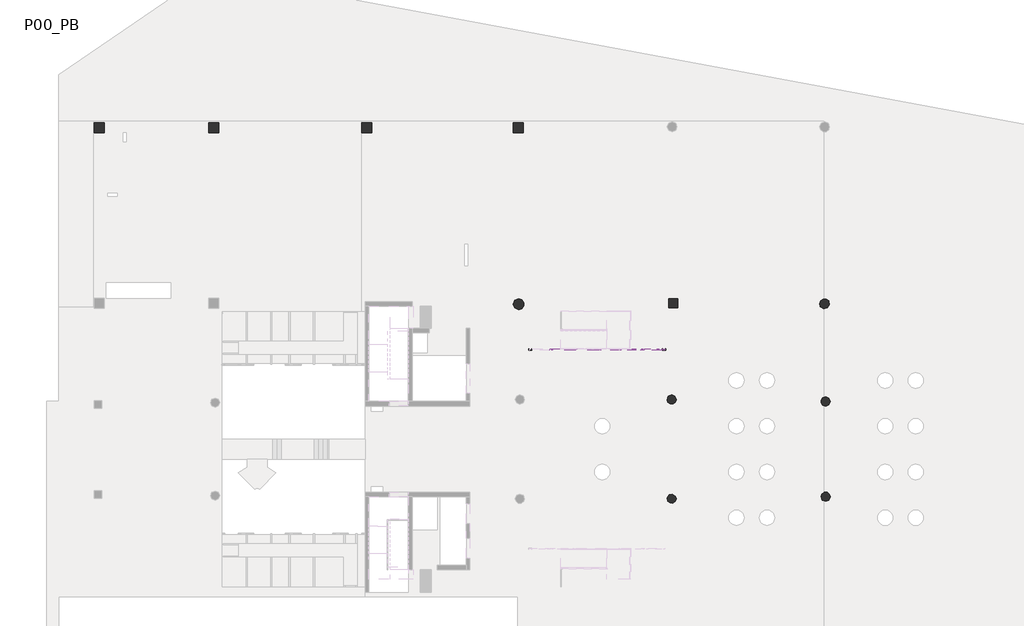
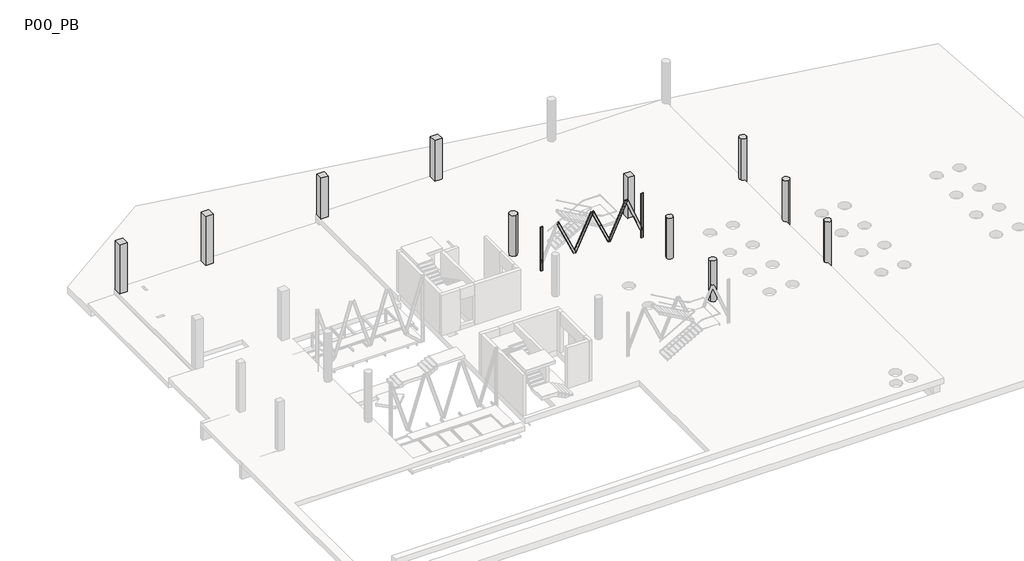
# One storey, part 5 of 7: 13 columns, 5 beams.
"""IFC4 building model written with IfcOpenShell, lengths in millimetres."""

from ifc_helpers import new_model, si_unit, point, frame, frame_2d, origin, place, context, project, spatial, polyline, circle_curve, ellipse_curve, trimmed, segment, composite_curve, outline, extrude, faceted_brep, transform, mapped, element, save
from ifc_brep_helpers import plane_surface, cylinder_surface, revolved_surface, advanced_brep
from components import upn200x75_b5eab664, upn_200x75_48ebdcb8

model = new_model("IFC4")

# Units and contexts
model_context = context("Model", 3, world=origin())
ifc_project = project(units=[si_unit("LENGTHUNIT", "METRE", prefix="MILLI")], contexts=[model_context])

# Site, building, storey
site = spatial("IfcSite", under=ifc_project)
building = spatial("IfcBuilding", under=site)
storey = spatial("IfcBuildingStorey", under=building, Name="P00_PB", Elevation=6330.0)

# Beams
placement = place(None, origin())
element("IfcBeam", 1, ObjectType="M_MC Shapes : UPN200x75", at=placement, inside=storey, context=model_context, shape_type="AdvancedBrep", body=[
    advanced_brep(
    [(-17.3562496, 10979.6239635, 7801.4251777), (-17.3562475, 11054.6239635, 7801.4251777), (-16.4725656, 11054.6239635, 7801.0139622), (-12.9400553, 11051.3233407, 7799.3701316), (-3.7907887, 10990.7752086, 7795.1125795), (3.274232, 10984.1739629, 7791.8249184), (143.3417368, 10984.173959, 7726.645423), (150.4067579, 10990.7752043, 7723.3577618), (159.5560278, 11051.3233358, 7719.1002098), (163.0885384, 11054.6239585, 7717.4563792), (163.9722203, 11054.6239584, 7717.0451636), (163.9722182, 10979.6239584, 7717.0451636), (1699.532288, 10979.6239155, 11016.8876402), (1481.7173563, 10979.6239216, 11022.8600517), (1699.5322901, 11054.6239155, 11016.8876401), (1698.4707959, 11054.6239155, 11016.9167459), (1694.2274824, 11051.3232929, 11017.0330961), (1683.2372194, 10990.7751614, 11017.3344454), (1674.7505924, 10984.1739162, 11017.5671459), (1506.4990522, 10984.1739209, 11022.180546), (1498.0124255, 10990.7751666, 11022.4132465), (1487.0221658, 11051.3232987, 11022.7145957), (1482.7788525, 11054.6239215, 11022.8309459), (1481.7173583, 11054.6239216, 11022.8600517)],
    [
        (0, 1),
        (1, 2),
        (2, 3, circle_curve(frame((-16.4725658, 11050.6739635, 7801.0139622), z_axis=(-0.42190007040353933, 1.1803094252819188e-08, -0.9066423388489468), x_axis=(2.7976042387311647e-08, 0.9999999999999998, 0.0)), 3.95)),
        (3, 4),
        (4, 5, circle_curve(frame((3.2742323, 10992.0739629, 7791.8249184), z_axis=(0.42190007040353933, -1.1803094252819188e-08, 0.9066423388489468), x_axis=(2.7976042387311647e-08, 0.9999999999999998, 0.0)), 7.9)),
        (5, 6),
        (6, 7, circle_curve(frame((143.341737, 10992.073959, 7726.645423), z_axis=(0.42190007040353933, -1.1803094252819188e-08, 0.9066423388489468), x_axis=(2.7976042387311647e-08, 0.9999999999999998, 0.0)), 7.9)),
        (7, 8),
        (8, 9, circle_curve(frame((163.0885383, 11050.6739585, 7717.4563792), z_axis=(-0.42190007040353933, 1.1803094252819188e-08, -0.9066423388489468), x_axis=(2.7976042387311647e-08, 0.9999999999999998, 0.0)), 3.95)),
        (9, 10),
        (10, 11),
        (11, 0),
        (12, 13),
        (13, 0),
        (11, 12),
        (14, 12),
        (10, 14),
        (15, 14),
        (9, 15),
        (16, 15, ellipse_curve(frame((1698.4707958, 11050.6739155, 11016.9167459), z_axis=(-0.027409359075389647, 1.2011846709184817e-10, -0.9996242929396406), x_axis=(0.9996242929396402, -2.9461084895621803e-08, -0.02740935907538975)), 4.3034617, 3.95)),
        (8, 16),
        (7, 17),
        (17, 16),
        (18, 17, ellipse_curve(frame((1674.7505926, 10992.0739162, 11017.5671459), z_axis=(0.027409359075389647, -1.2011846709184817e-10, 0.9996242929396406), x_axis=(-0.9996242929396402, 2.9461084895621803e-08, 0.02740935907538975)), 8.6069235, 7.9)),
        (6, 18),
        (19, 18),
        (5, 19),
        (20, 19, ellipse_curve(frame((1506.4990524, 10992.0739209, 11022.180546), z_axis=(0.027409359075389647, -1.2011846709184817e-10, 0.9996242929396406), x_axis=(-0.9996242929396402, 2.9461084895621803e-08, 0.02740935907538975)), 8.6069235, 7.9)),
        (4, 20),
        (3, 21),
        (21, 20),
        (22, 21, ellipse_curve(frame((1482.7788524, 11050.6739215, 11022.8309459), z_axis=(-0.027409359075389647, 1.2011846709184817e-10, -0.9996242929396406), x_axis=(0.9996242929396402, -2.9461084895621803e-08, -0.02740935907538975)), 4.3034617, 3.95)),
        (2, 22),
        (23, 22),
        (1, 23),
        (13, 23),
    ],
    [
        plane_surface(frame((73.3079846, 10990.523961, 7759.2351707), z_axis=(-0.42190007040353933, 1.1803094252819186e-08, -0.9066423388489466), x_axis=(-0.9066423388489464, 2.5364264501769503e-08, 0.4219000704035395))),
        plane_surface(frame((1481.6968905, 10979.6239216, 11022.8160719), z_axis=(-2.7976042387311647e-08, -0.9999999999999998, 0.0), x_axis=(-0.42190007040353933, 1.1803094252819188e-08, -0.9066423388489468))),
        plane_surface(frame((1663.0253583, 10979.6239165, 10938.4360578), z_axis=(0.9066423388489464, -2.53642645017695e-08, -0.4219000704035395), x_axis=(-0.42190007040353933, 1.1803094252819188e-08, -0.9066423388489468))),
        plane_surface(frame((1663.0253604, 11054.6239165, 10938.4360578), z_axis=(2.7976042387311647e-08, 0.9999999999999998, 0.0), x_axis=(-0.42190007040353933, 1.1803094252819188e-08, -0.9066423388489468))),
        cylinder_surface(frame((1662.1416784, 11050.6739165, 10938.8472734), z_axis=(0.42190007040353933, -1.1803094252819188e-08, 0.9066423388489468), x_axis=(2.7976042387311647e-08, 0.9999999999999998, 0.0)), 3.95),
        plane_surface(frame((1655.8628853, 11033.1489167, 10941.7690684), z_axis=(-0.894306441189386, 0.16439933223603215, 0.41615964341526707), x_axis=(-0.42190007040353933, 1.1803094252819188e-08, -0.9066423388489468))),
        revolved_surface(polyline([(143.34173716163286, 10999.973959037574, 7726.645423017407), (1676.1918081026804, 10999.973916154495, 11020.664246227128)]), (1642.3948771, 10992.0739171, 10948.0363172), (-0.42190007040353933, 1.1803094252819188e-08, -0.9066423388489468)),
        plane_surface(frame((1642.3948769, 10984.1739171, 10948.0363172), z_axis=(2.7976042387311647e-08, 0.9999999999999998, 0.0), x_axis=(-0.42190007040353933, 1.1803094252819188e-08, -0.9066423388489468))),
        revolved_surface(polyline([(3.2742324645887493, 10999.973962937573, 7791.824918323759), (1507.9402679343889, 10999.973920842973, 11025.277646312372)]), (1502.3273724, 10992.073921, 11013.2158125), (-0.42190007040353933, 1.1803094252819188e-08, -0.9066423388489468)),
        plane_surface(frame((1488.8593665, 11033.1489214, 11019.4830613), z_axis=(0.8943064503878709, 0.1643992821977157, -0.41615964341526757), x_axis=(-0.42190007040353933, 1.1803094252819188e-08, -0.9066423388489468))),
        cylinder_surface(frame((1482.5805744, 11050.6739215, 11022.4048563), z_axis=(0.42190007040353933, -1.1803094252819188e-08, 0.9066423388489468), x_axis=(2.7976042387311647e-08, 0.9999999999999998, 0.0)), 3.95),
        plane_surface(frame((1482.5805745, 11054.6239215, 11022.4048563), z_axis=(2.7976042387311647e-08, 0.9999999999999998, 0.0), x_axis=(-0.42190007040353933, 1.1803094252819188e-08, -0.9066423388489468))),
        plane_surface(frame((1481.6968926, 11054.6239216, 11022.8160719), z_axis=(-0.9066423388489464, 2.53642645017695e-08, 0.4219000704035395), x_axis=(-0.42190007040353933, 1.1803094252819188e-08, -0.9066423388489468))),
        plane_surface(frame((1699.5322883, 10990.5239152, 11016.8876402), z_axis=(0.027409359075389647, -1.2011846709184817e-10, 0.9996242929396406), x_axis=(0.9996242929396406, 3.2936076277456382e-12, -0.027409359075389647))),
    ],
    [
        (0, [[1, 2, 3, 4, 5, 6, 7, 8, 9, 10, 11, 12]]),
        (1, [[13, 14, -12, 15]]),
        (2, [[16, -15, -11, 17]]),
        (3, [[18, -17, -10, 19]]),
        (4, [[20, -19, -9, 21]]),
        (5, [[-21, -8, 22, 23]]),
        (6, [[24, -22, -7, 25]]),
        (7, [[26, -25, -6, 27]]),
        (8, [[28, -27, -5, 29]]),
        (9, [[-29, -4, 30, 31]]),
        (10, [[32, -30, -3, 33]]),
        (11, [[34, -33, -2, 35]]),
        (12, [[36, -35, -1, -14]]),
        (13, [[-13, -16, -18, -20, -23, -24, -26, -28, -31, -32, -34, -36]]),
    ],
),
])
element("IfcBeam", 2, ObjectType="M_MC Shapes : UPN200x75", at=placement, inside=storey, context=model_context, shape_type="AdvancedBrep", body=[
    advanced_brep(
    [(3164.6874658, 10979.6239637, 7801.3997983), (2982.4483043, 10979.6239588, 7719.0050895), (2982.4483023, 11054.6239588, 7719.0050895), (2983.3364224, 11054.6239588, 7719.4066299), (2986.8866744, 11051.3233362, 7721.0117842), (2996.081895, 10990.7752046, 7725.1691639), (3003.1823991, 10984.1739593, 7728.3794725), (3143.9533708, 10984.1739631, 7792.0254152), (3151.0538745, 10990.7752088, 7795.2357239), (3160.2490919, 11051.3233408, 7799.3931036), (3163.7993437, 11054.6239636, 7800.9982579), (3164.6874638, 11054.6239637, 7801.3997983), (1491.330121, 10979.6239189, 11017.0339448), (1708.187231, 10979.6239247, 11022.8612867), (1491.3301191, 11054.6239189, 11017.0339448), (1492.3869454, 11054.623919, 11017.0623436), (1496.6115993, 11051.3232963, 11017.1758677), (1507.5535335, 10990.7751649, 11017.4698972), (1516.0028414, 10984.1739196, 11017.6969453), (1683.5145104, 10984.1739241, 11022.1982862), (1691.9638179, 10990.7751698, 11022.4253343), (1702.9057489, 11051.3233019, 11022.7193637), (1707.1304027, 11054.6239247, 11022.8328878), (1708.187229, 11054.6239247, 11022.8612866)],
    [
        (0, 1),
        (1, 2),
        (2, 3),
        (3, 4, circle_curve(frame((2983.3364225, 11050.6739588, 7719.4066299), z_axis=(0.41197354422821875, 1.1010593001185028e-08, -0.911195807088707), x_axis=(-2.6726456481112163e-08, 0.9999999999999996, 0.0)), 3.95)),
        (4, 5),
        (5, 6, circle_curve(frame((3003.1823989, 10992.0739593, 7728.3794725), z_axis=(-0.41197354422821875, -1.1010593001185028e-08, 0.911195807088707), x_axis=(-2.6726456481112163e-08, 0.9999999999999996, 0.0)), 7.9)),
        (6, 7),
        (7, 8, circle_curve(frame((3143.9533706, 10992.0739631, 7792.0254152), z_axis=(-0.41197354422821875, -1.1010593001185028e-08, 0.911195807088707), x_axis=(-2.6726456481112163e-08, 0.9999999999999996, 0.0)), 7.9)),
        (8, 9),
        (9, 10, circle_curve(frame((3163.7993438, 11050.6739636, 7800.9982579), z_axis=(0.41197354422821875, 1.1010593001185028e-08, -0.911195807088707), x_axis=(-2.6726456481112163e-08, 0.9999999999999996, 0.0)), 3.95)),
        (10, 11),
        (11, 0),
        (12, 1),
        (0, 13),
        (13, 12),
        (14, 2),
        (12, 14),
        (15, 3),
        (14, 15),
        (16, 4),
        (15, 16, ellipse_curve(frame((1492.3869455, 11050.673919, 11017.0623436), z_axis=(0.02686210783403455, -1.5395051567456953e-10, -0.9996391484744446), x_axis=(-0.9996391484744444, -2.8791985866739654e-08, -0.026862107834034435)), 4.284474, 3.95)),
        (16, 17),
        (17, 5),
        (18, 6),
        (17, 18, ellipse_curve(frame((1516.0028412, 10992.0739196, 11017.6969453), z_axis=(-0.02686210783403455, 1.5395051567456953e-10, 0.9996391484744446), x_axis=(0.9996391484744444, 2.8791985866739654e-08, 0.026862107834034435)), 8.568948, 7.9)),
        (19, 7),
        (18, 19),
        (20, 8),
        (19, 20, ellipse_curve(frame((1683.5145102, 10992.0739241, 11022.1982862), z_axis=(-0.02686210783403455, 1.5395051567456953e-10, 0.9996391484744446), x_axis=(0.9996391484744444, 2.8791985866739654e-08, 0.026862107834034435)), 8.568948, 7.9)),
        (20, 21),
        (21, 9),
        (22, 10),
        (21, 22, ellipse_curve(frame((1707.1304028, 11050.6739247, 11022.8328878), z_axis=(0.02686210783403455, -1.5395051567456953e-10, -0.9996391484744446), x_axis=(-0.9996391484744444, -2.8791985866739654e-08, -0.026862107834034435)), 4.284474, 3.95)),
        (23, 11),
        (22, 23),
        (23, 13),
    ],
    [
        plane_surface(frame((3073.5678848, 10990.5239612, 7760.2024439), z_axis=(0.41197354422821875, 1.101059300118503e-08, -0.9111958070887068), x_axis=(0.9111958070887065, 2.4353035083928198e-08, 0.41197354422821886))),
        plane_surface(frame((1708.1961975, 10979.6239247, 11022.8414547), z_axis=(2.6726456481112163e-08, -0.9999999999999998, 0.0), x_axis=(0.4119735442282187, 1.1010593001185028e-08, -0.9111958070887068))),
        plane_surface(frame((1525.9570361, 10979.6239199, 10940.4467458), z_axis=(-0.9111958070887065, -2.43530350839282e-08, -0.41197354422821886), x_axis=(0.4119735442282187, 1.1010593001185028e-08, -0.9111958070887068))),
        plane_surface(frame((1525.9570341, 11054.6239199, 10940.4467458), z_axis=(-2.6726456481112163e-08, 0.9999999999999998, 0.0), x_axis=(0.4119735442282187, 1.1010593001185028e-08, -0.9111958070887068))),
        cylinder_surface(frame((1526.8451542, 11050.6739199, 10940.8482863), z_axis=(-0.41197354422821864, -1.1010593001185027e-08, 0.9111958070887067), x_axis=(-2.6726456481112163e-08, 0.9999999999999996, 0.0)), 3.95),
        plane_surface(frame((1533.1554815, 11033.1489201, 10943.7013368), z_axis=(0.8987979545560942, 0.16439933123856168, 0.40636817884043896), x_axis=(0.4119735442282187, 1.1010593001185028e-08, -0.9111958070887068))),
        revolved_surface(polyline([(3003.1823986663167, 10999.97395932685, 7728.379472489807), (1514.6354319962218, 10999.973919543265, 11020.721356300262)]), (1546.6911306, 10992.0739204, 10949.8211289), (0.41197354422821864, 1.1010593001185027e-08, -0.9111958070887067)),
        plane_surface(frame((1546.6911308, 10984.1739204, 10949.8211289), z_axis=(-2.6726456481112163e-08, 0.9999999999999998, 0.0), x_axis=(0.4119735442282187, 1.1010593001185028e-08, -0.9111958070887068))),
        revolved_surface(polyline([(3143.953370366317, 10999.97396312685, 7792.025415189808), (1682.147100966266, 10999.97392405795, 11025.222697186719)]), (1687.4621023, 10992.0739242, 11013.4670716), (0.41197354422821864, 1.1010593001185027e-08, -0.9111958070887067)),
        plane_surface(frame((1700.9977492, 11033.1489245, 11019.5868637), z_axis=(-0.898797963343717, 0.16439928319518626, -0.40636817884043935), x_axis=(0.4119735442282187, 1.1010593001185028e-08, -0.9111958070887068))),
        cylinder_surface(frame((1707.3080756, 11050.6739247, 11022.4399143), z_axis=(-0.41197354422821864, -1.1010593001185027e-08, 0.9111958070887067), x_axis=(-2.6726456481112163e-08, 0.9999999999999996, 0.0)), 3.95),
        plane_surface(frame((1707.3080755, 11054.6239247, 11022.4399143), z_axis=(-2.6726456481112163e-08, 0.9999999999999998, 0.0), x_axis=(0.4119735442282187, 1.1010593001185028e-08, -0.9111958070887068))),
        plane_surface(frame((1708.1961955, 11054.6239247, 11022.8414547), z_axis=(0.9111958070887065, 2.43530350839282e-08, 0.41197354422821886), x_axis=(0.4119735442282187, 1.1010593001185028e-08, -0.9111958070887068))),
        plane_surface(frame((1491.3301209, 10990.5239185, 11017.0339448), z_axis=(-0.02686210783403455, 1.5395051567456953e-10, 0.9996391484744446), x_axis=(0.9996391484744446, 4.136928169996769e-12, 0.02686210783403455))),
    ],
    [
        (0, [[1, 2, 3, 4, 5, 6, 7, 8, 9, 10, 11, 12]]),
        (1, [[13, -1, 14, 15]]),
        (2, [[16, -2, -13, 17]]),
        (3, [[18, -3, -16, 19]]),
        (4, [[20, -4, -18, 21]]),
        (5, [[22, 23, -5, -20]]),
        (6, [[24, -6, -23, 25]]),
        (7, [[26, -7, -24, 27]]),
        (8, [[28, -8, -26, 29]]),
        (9, [[30, 31, -9, -28]]),
        (10, [[32, -10, -31, 33]]),
        (11, [[34, -11, -32, 35]]),
        (12, [[-14, -12, -34, 36]]),
        (13, [[-36, -35, -33, -30, -29, -27, -25, -22, -21, -19, -17, -15]]),
    ],
),
])
element("IfcBeam", 3, ObjectType="M_MC Shapes : UPN200x75", at=placement, inside=storey, context=model_context, shape_type="AdvancedBrep", body=[
    advanced_brep(
    [(2982.6395179, 10979.6239634, 7801.4159495), (2982.63952, 11054.6239634, 7801.4159495), (2983.525626, 11054.6239633, 7801.009984), (2987.0678268, 11051.3233405, 7799.3871403), (2996.242192, 10990.7752085, 7795.1839447), (3003.3265937, 10984.1739628, 7791.9382573), (3143.7783356, 10984.1739589, 7727.5909133), (3150.8627377, 10990.7752042, 7724.345226), (3160.0371062, 11051.3233357, 7720.1420304), (3163.5793072, 11054.6239584, 7718.5191867), (3164.4654132, 11054.6239584, 7718.1132212), (3164.4654111, 10979.6239584, 7718.1132212), (4675.8207984, 10979.6239167, 11016.9672779), (4458.5302771, 10979.6239227, 11022.8609249), (4675.8208004, 11054.6239167, 11016.9672778), (4674.7618619, 11054.6239168, 11016.9959998), (4670.5287646, 11051.3232941, 11017.1108156), (4659.5649617, 10990.7751627, 11017.4081906), (4651.098767, 10984.1739174, 11017.6378222), (4483.2523087, 10984.173922, 11022.1903806), (4474.7861143, 10990.7751677, 11022.4200121), (4463.8223148, 11051.3232998, 11022.7173871), (4459.5892176, 11054.6239227, 11022.8322029), (4458.5302791, 11054.6239227, 11022.8609248)],
    [
        (0, 1),
        (1, 2),
        (2, 3, circle_curve(frame((2983.5256259, 11050.6739633, 7801.009984), z_axis=(-0.41651364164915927, 1.147252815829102e-08, -0.9091294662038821), x_axis=(2.7544183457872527e-08, 0.9999999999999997, 0.0)), 3.95)),
        (3, 4),
        (4, 5, circle_curve(frame((3003.3265939, 10992.0739628, 7791.9382573), z_axis=(0.41651364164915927, -1.147252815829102e-08, 0.9091294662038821), x_axis=(2.7544183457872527e-08, 0.9999999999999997, 0.0)), 7.9)),
        (5, 6),
        (6, 7, circle_curve(frame((3143.7783358, 10992.0739589, 7727.5909133), z_axis=(0.41651364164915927, -1.147252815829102e-08, 0.9091294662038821), x_axis=(2.7544183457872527e-08, 0.9999999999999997, 0.0)), 7.9)),
        (7, 8),
        (8, 9, circle_curve(frame((3163.5793071, 11050.6739584, 7718.5191867), z_axis=(-0.41651364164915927, 1.147252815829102e-08, -0.9091294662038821), x_axis=(2.7544183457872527e-08, 0.9999999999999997, 0.0)), 3.95)),
        (9, 10),
        (10, 11),
        (11, 0),
        (12, 13),
        (13, 0),
        (11, 12),
        (14, 12),
        (10, 14),
        (15, 14),
        (9, 15),
        (16, 15, ellipse_curve(frame((4674.7618618, 11050.6739168, 11016.9959998), z_axis=(-0.0271133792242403, 2.603596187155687e-11, -0.9996323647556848), x_axis=(0.9996323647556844, -2.9227094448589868e-08, -0.02711337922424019)), 4.2930661, 3.95)),
        (8, 16),
        (7, 17),
        (17, 16),
        (18, 17, ellipse_curve(frame((4651.0987672, 10992.0739174, 11017.6378222), z_axis=(0.0271133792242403, -2.603596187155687e-11, 0.9996323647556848), x_axis=(-0.9996323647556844, 2.9227094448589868e-08, 0.02711337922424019)), 8.5861322, 7.9)),
        (6, 18),
        (19, 18),
        (5, 19),
        (20, 19, ellipse_curve(frame((4483.2523089, 10992.073922, 11022.1903806), z_axis=(0.0271133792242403, -2.603596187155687e-11, 0.9996323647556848), x_axis=(-0.9996323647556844, 2.9227094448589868e-08, 0.02711337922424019)), 8.5861322, 7.9)),
        (4, 20),
        (3, 21),
        (21, 20),
        (22, 21, ellipse_curve(frame((4459.5892175, 11050.6739227, 11022.8322029), z_axis=(-0.0271133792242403, 2.603596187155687e-11, -0.9996323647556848), x_axis=(0.9996323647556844, -2.9227094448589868e-08, -0.02711337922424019)), 4.2930661, 3.95)),
        (2, 22),
        (23, 22),
        (1, 23),
        (13, 23),
    ],
    [
        plane_surface(frame((3073.5524648, 10990.5239609, 7759.7645853), z_axis=(-0.4165136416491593, 1.147252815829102e-08, -0.9091294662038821), x_axis=(-0.9091294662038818, 2.5041228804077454e-08, 0.41651364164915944))),
        plane_surface(frame((4458.5139557, 10979.6239227, 11022.8253), z_axis=(-2.7544183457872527e-08, -0.9999999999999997, 0.0), x_axis=(-0.41651364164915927, 1.147252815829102e-08, -0.9091294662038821))),
        plane_surface(frame((4640.339849, 10979.6239177, 10939.5225717), z_axis=(0.9091294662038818, -2.504122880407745e-08, -0.4165136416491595), x_axis=(-0.41651364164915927, 1.147252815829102e-08, -0.9091294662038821))),
        plane_surface(frame((4640.339851, 11054.6239177, 10939.5225717), z_axis=(2.7544183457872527e-08, 0.9999999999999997, 0.0), x_axis=(-0.41651364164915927, 1.147252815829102e-08, -0.9091294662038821))),
        cylinder_surface(frame((4639.4537449, 11050.6739177, 10939.9285373), z_axis=(0.41651364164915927, -1.147252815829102e-08, 0.9091294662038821), x_axis=(2.7544183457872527e-08, 0.9999999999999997, 0.0)), 3.95),
        plane_surface(frame((4633.1577277, 11033.1489179, 10942.8130295), z_axis=(-0.896759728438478, 0.16439933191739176, 0.4108465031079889), x_axis=(-0.41651364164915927, 1.147252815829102e-08, -0.9091294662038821))),
        revolved_surface(polyline([(3143.778336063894, 10999.973958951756, 7727.590913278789), (4652.499620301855, 10999.97391739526, 11020.695480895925)]), (4619.6527737, 10992.0739183, 10949.0002639), (-0.41651364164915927, 1.147252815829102e-08, -0.9091294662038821)),
        plane_surface(frame((4619.6527734, 10984.1739183, 10949.0002639), z_axis=(2.7544183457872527e-08, 0.9999999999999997, 0.0), x_axis=(-0.41651364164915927, 1.147252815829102e-08, -0.9091294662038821))),
        revolved_surface(polyline([(3003.3265940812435, 10999.973962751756, 7791.938257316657), (4484.653161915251, 10999.973921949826, 11025.248039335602)]), (4479.2010317, 10992.0739221, 11013.3476079), (-0.41651364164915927, 1.147252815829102e-08, -0.9091294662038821)),
        plane_surface(frame((4465.69608, 11033.1489225, 11019.5348423), z_axis=(0.8967597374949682, 0.16439928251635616, -0.4108465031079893), x_axis=(-0.41651364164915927, 1.147252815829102e-08, -0.9091294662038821))),
        cylinder_surface(frame((4459.4000637, 11050.6739227, 11022.4193345), z_axis=(0.41651364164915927, -1.147252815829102e-08, 0.9091294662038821), x_axis=(2.7544183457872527e-08, 0.9999999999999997, 0.0)), 3.95),
        plane_surface(frame((4459.4000638, 11054.6239227, 11022.4193345), z_axis=(2.7544183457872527e-08, 0.9999999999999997, 0.0), x_axis=(-0.41651364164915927, 1.147252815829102e-08, -0.9091294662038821))),
        plane_surface(frame((4458.5139578, 11054.6239227, 11022.8253), z_axis=(-0.9091294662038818, 2.504122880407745e-08, 0.4165136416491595), x_axis=(-0.41651364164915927, 1.147252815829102e-08, -0.9091294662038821))),
        plane_surface(frame((4675.8207987, 10990.5239164, 11016.9672779), z_axis=(0.0271133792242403, -2.603596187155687e-11, 0.9996323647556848), x_axis=(0.9996323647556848, 0.0, -0.0271133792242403))),
    ],
    [
        (0, [[1, 2, 3, 4, 5, 6, 7, 8, 9, 10, 11, 12]]),
        (1, [[13, 14, -12, 15]]),
        (2, [[16, -15, -11, 17]]),
        (3, [[18, -17, -10, 19]]),
        (4, [[20, -19, -9, 21]]),
        (5, [[-21, -8, 22, 23]]),
        (6, [[24, -22, -7, 25]]),
        (7, [[26, -25, -6, 27]]),
        (8, [[28, -27, -5, 29]]),
        (9, [[-29, -4, 30, 31]]),
        (10, [[32, -30, -3, 33]]),
        (11, [[34, -33, -2, 35]]),
        (12, [[36, -35, -1, -14]]),
        (13, [[-13, -16, -18, -20, -23, -24, -26, -28, -31, -32, -34, -36]]),
    ],
),
])
element("IfcBeam", 4, ObjectType="M_MC Shapes : UPN200x75", at=placement, inside=storey, context=model_context, shape_type="AdvancedBrep", body=[
    advanced_brep(
    [(6015.1784277, 10979.6239643, 7861.7835027), (5830.1204956, 10979.6239586, 7785.9312665), (5830.1204933, 11054.6239586, 7785.9312665), (5831.0223502, 11054.6239587, 7786.300923), (5834.6275155, 11051.323336, 7787.7786215), (5843.9649628, 10990.7752045, 7791.6058885), (5851.1752934, 10984.1739593, 7794.5612857), (5994.1236297, 10984.1739637, 7853.1534835), (6001.3339598, 10990.7752094, 7856.1088806), (6010.6714034, 11051.3233414, 7859.9361476), (6014.2765685, 11054.6239643, 7861.4138462), (6015.1784254, 11054.6239643, 7861.7835027), (4488.2266268, 10979.6239175, 11059.771525), (4702.5088632, 10979.6239241, 11064.3247518), (4488.2266245, 11054.6239175, 11059.7715249), (4489.2709025, 11054.6239175, 11059.7937145), (4493.4453946, 11051.3232949, 11059.8824172), (4504.257409, 10990.7751635, 11060.1121589), (4512.6063932, 10984.1739183, 11060.2895642), (4678.1290965, 10984.1739233, 11063.8067125), (4686.4780803, 10990.7751691, 11063.9841179), (4697.290091, 11051.3233012, 11064.2138595), (4701.4645829, 11054.623924, 11064.3025621), (4702.5088609, 11054.6239241, 11064.3247517)],
    [
        (0, 1),
        (1, 2),
        (2, 3),
        (3, 4, circle_curve(frame((5831.0223503, 11050.6739587, 7786.300923), z_axis=(0.37926118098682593, 1.1627095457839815e-08, -0.9252896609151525), x_axis=(-3.065722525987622e-08, 0.9999999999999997, 0.0)), 3.95)),
        (4, 5),
        (5, 6, circle_curve(frame((5851.1752931, 10992.0739593, 7794.5612857), z_axis=(-0.37926118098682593, -1.1627095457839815e-08, 0.9252896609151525), x_axis=(-3.065722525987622e-08, 0.9999999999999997, 0.0)), 7.9)),
        (6, 7),
        (7, 8, circle_curve(frame((5994.1236294, 10992.0739637, 7853.1534835), z_axis=(-0.37926118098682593, -1.1627095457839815e-08, 0.9252896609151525), x_axis=(-3.065722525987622e-08, 0.9999999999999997, 0.0)), 7.9)),
        (8, 9),
        (9, 10, circle_curve(frame((6014.2765686, 11050.6739643, 7861.4138462), z_axis=(0.37926118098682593, 1.1627095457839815e-08, -0.9252896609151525), x_axis=(-3.065722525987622e-08, 0.9999999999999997, 0.0)), 3.95)),
        (10, 11),
        (11, 0),
        (12, 1),
        (0, 13),
        (13, 12),
        (14, 2),
        (12, 14),
        (15, 3),
        (14, 15),
        (16, 4),
        (15, 16, ellipse_curve(frame((4489.2709026, 11050.6739175, 11059.7937145), z_axis=(0.021243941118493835, -2.786987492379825e-12, -0.9997743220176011), x_axis=(-0.9997743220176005, -3.234795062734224e-08, -0.021243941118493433)), 4.2330295, 3.95)),
        (16, 17),
        (17, 5),
        (18, 6),
        (17, 18, ellipse_curve(frame((4512.606393, 10992.0739183, 11060.2895642), z_axis=(-0.021243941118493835, 2.786987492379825e-12, 0.9997743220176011), x_axis=(0.9997743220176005, 3.234795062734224e-08, 0.021243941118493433)), 8.4660589, 7.9)),
        (19, 7),
        (18, 19),
        (20, 8),
        (19, 20, ellipse_curve(frame((4678.1290962, 10992.0739233, 11063.8067125), z_axis=(-0.021243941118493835, 2.786987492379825e-12, 0.9997743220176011), x_axis=(0.9997743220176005, 3.234795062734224e-08, 0.021243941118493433)), 8.4660589, 7.9)),
        (20, 21),
        (21, 9),
        (22, 10),
        (21, 22, ellipse_curve(frame((4701.464583, 11050.673924, 11064.3025621), z_axis=(0.021243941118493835, -2.786987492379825e-12, -0.9997743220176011), x_axis=(-0.9997743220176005, -3.234795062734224e-08, -0.021243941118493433)), 4.2330295, 3.95)),
        (23, 11),
        (22, 23),
        (23, 13),
    ],
    [
        plane_surface(frame((5922.6494613, 10990.5239615, 7823.8573846), z_axis=(0.37926118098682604, 1.1627095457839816e-08, -0.9252896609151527), x_axis=(0.9252896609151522, 2.8366813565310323e-08, 0.37926118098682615))),
        plane_surface(frame((4688.5228166, 10979.6239236, 11098.4467366), z_axis=(3.065722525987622e-08, -0.9999999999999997, 0.0), x_axis=(0.37926118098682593, 1.1627095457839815e-08, -0.9252896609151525))),
        plane_surface(frame((4503.4648845, 10979.623918, 11022.5945004), z_axis=(-0.9252896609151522, -2.836681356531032e-08, -0.37926118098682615), x_axis=(0.37926118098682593, 1.1627095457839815e-08, -0.9252896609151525))),
        plane_surface(frame((4503.4648822, 11054.623918, 11022.5945004), z_axis=(-3.065722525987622e-08, 0.9999999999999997, 0.0), x_axis=(0.37926118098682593, 1.1627095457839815e-08, -0.9252896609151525))),
        cylinder_surface(frame((4504.3667392, 11050.673918, 11022.9641568), z_axis=(-0.37926118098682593, -1.1627095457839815e-08, 0.9252896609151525), x_axis=(-3.065722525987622e-08, 0.9999999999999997, 0.0)), 3.95),
        plane_surface(frame((4510.7746711, 11033.1489182, 11025.5906637), z_axis=(0.9127000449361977, 0.16439933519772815, 0.3741009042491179), x_axis=(0.37926118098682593, 1.1627095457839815e-08, -0.9252896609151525))),
        revolved_surface(polyline([(5851.175292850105, 10999.97395927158, 7794.561285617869), (4511.452032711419, 10999.973918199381, 11063.105875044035)]), (4524.519682, 10992.0739186, 11031.2245195), (0.37926118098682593, 1.1627095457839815e-08, -0.9252896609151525)),
        plane_surface(frame((4524.5196823, 10984.1739186, 11031.2245195), z_axis=(-3.065722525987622e-08, 0.9999999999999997, 0.0), x_axis=(0.37926118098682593, 1.1627095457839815e-08, -0.9252896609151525))),
        revolved_surface(polyline([(5994.123629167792, 10999.97396367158, 7853.153483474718), (4676.97473596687, 10999.973923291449, 11066.623023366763)]), (4667.4680183, 10992.073923, 11089.8167174), (0.37926118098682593, 1.1627095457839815e-08, -0.9252896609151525)),
        plane_surface(frame((4681.2130267, 11033.1489234, 11095.4505732), z_axis=(-0.912700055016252, 0.1643992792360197, -0.3741009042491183), x_axis=(0.37926118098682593, 1.1627095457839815e-08, -0.9252896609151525))),
        cylinder_surface(frame((4687.6209575, 11050.6739236, 11098.0770801), z_axis=(-0.37926118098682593, -1.1627095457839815e-08, 0.9252896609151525), x_axis=(-3.065722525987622e-08, 0.9999999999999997, 0.0)), 3.95),
        plane_surface(frame((4687.6209574, 11054.6239236, 11098.0770801), z_axis=(-3.065722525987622e-08, 0.9999999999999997, 0.0), x_axis=(0.37926118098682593, 1.1627095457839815e-08, -0.9252896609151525))),
        plane_surface(frame((4688.5228143, 11054.6239236, 11098.4467366), z_axis=(0.9252896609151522, 2.836681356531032e-08, 0.37926118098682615), x_axis=(0.37926118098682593, 1.1627095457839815e-08, -0.9252896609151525))),
        plane_surface(frame((4488.2266266, 10990.5239171, 11059.771525), z_axis=(-0.021243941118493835, 2.786987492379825e-12, 0.9997743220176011), x_axis=(0.9997743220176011, 0.0, 0.021243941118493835))),
    ],
    [
        (0, [[1, 2, 3, 4, 5, 6, 7, 8, 9, 10, 11, 12]]),
        (1, [[13, -1, 14, 15]]),
        (2, [[16, -2, -13, 17]]),
        (3, [[18, -3, -16, 19]]),
        (4, [[20, -4, -18, 21]]),
        (5, [[22, 23, -5, -20]]),
        (6, [[24, -6, -23, 25]]),
        (7, [[26, -7, -24, 27]]),
        (8, [[28, -8, -26, 29]]),
        (9, [[30, 31, -9, -28]]),
        (10, [[32, -10, -31, 33]]),
        (11, [[34, -11, -32, 35]]),
        (12, [[-14, -12, -34, 36]]),
        (13, [[-36, -35, -33, -30, -29, -27, -25, -22, -21, -19, -17, -15]]),
    ],
),
])
upn200x75_shape = upn200x75_b5eab664(model_context)
element("IfcBeam", 5, ObjectType="M_MC Shapes : UPN200x75", at=placement, inside=storey, context=model_context, shape_type="MappedRepresentation", body=[
    mapped(upn200x75_shape, transform((-676.3405197, 10990.5239422, 9410.0000115), x_axis=(0.4138029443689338, 1.0554981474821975e-08, -0.9103664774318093), y_axis=(-2.550726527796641e-08, 0.9999999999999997, 0.0), z_axis=(0.9103664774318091, 2.3220959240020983e-08, 0.41380294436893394))),
])

# Columns
element("IfcColumn", 6, ObjectType="Hormigón-Redondo-Pilar : Pilo_Rodo-Formigo-700", at=placement, inside=storey, context=model_context, shape_type="SweptSolid", body=[
    extrude(outline(composite_curve([segment(trimmed(circle_curve(frame_2d((-3566.6084988, 13989.4139752)), 350.0), [point((-3566.6084988, 14339.4139752))], [point((-3566.6084988, 13639.4139752))], False, "CARTESIAN"), True, "CONTINUOUS"), segment(trimmed(circle_curve(frame_2d((-3566.6084988, 13989.4139752)), 350.0), [point((-3566.6084988, 13639.4139752))], [point((-3566.6084988, 14339.4139752))], False, "CARTESIAN"), True, "CONTINUOUS")], self_intersect=False)), frame((0.0, 0.0, 7100.0), z_axis=(0.0, 0.0, 1.0), x_axis=(1.0, 0.0, 0.0)), (0.0, 0.0, 1.0), 3760.0),
])
element("IfcColumn", 7, ObjectType="Hormigón-Redondo-Pilar : Pilo_Rodo-Formigo-650", at=placement, inside=storey, context=model_context, shape_type="AdvancedBrep", body=[
    advanced_brep(
    [(16434.3462695, 14335.6151222, 5480.0), (16751.4451309, 14198.7161882, 5480.0), (16434.353798, 13693.1735461, 5480.0), (16216.0922843, 13830.0736383, 10860.0), (16751.4451309, 14198.7161882, 10860.0), (16434.3462695, 14335.6151222, 6600.0), (16216.0922843, 13830.0736383, 6600.0), (16434.353798, 13693.1735461, 6600.0)],
    [
        (0, 1, circle_curve(frame((16483.7687076, 14014.3949133, 5480.0), z_axis=(0.0, 0.0, -1.0), x_axis=(0.8236197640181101, 0.5671423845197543, 0.0)), 325.0)),
        (1, 2, circle_curve(frame((16483.7687076, 14014.3949133, 5480.0), z_axis=(0.0, 0.0, -1.0), x_axis=(0.8236197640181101, 0.5671423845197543, 0.0)), 325.0)),
        (2, 0),
        (3, 4, circle_curve(frame((16483.7687076, 14014.3949133, 10860.0), z_axis=(0.0, 0.0, -1.0), x_axis=(0.8236197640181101, 0.5671423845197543, 0.0)), 325.0)),
        (4, 1),
        (0, 5),
        (5, 6, circle_curve(frame((16483.7687076, 14014.3949133, 6600.0), z_axis=(0.0, 0.0, 1.0), x_axis=(0.8236197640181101, 0.5671423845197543, 0.0)), 325.0)),
        (6, 3),
        (4, 3, circle_curve(frame((16483.7687076, 14014.3949133, 10860.0), z_axis=(0.0, 0.0, -1.0), x_axis=(0.8236197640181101, 0.5671423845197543, 0.0)), 325.0)),
        (6, 7, circle_curve(frame((16483.7687076, 14014.3949133, 6600.0), z_axis=(0.0, 0.0, 1.0), x_axis=(0.8236197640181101, 0.5671423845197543, 0.0)), 325.0)),
        (7, 2),
        (7, 5),
    ],
    [
        plane_surface(frame((16751.4451309, 14198.7161882, 5480.0), z_axis=(0.0, 0.0, -1.0000000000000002), x_axis=(0.5671423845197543, -0.8236197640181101, 0.0))),
        cylinder_surface(frame((16483.7687076, 14014.3949133, 5480.0), z_axis=(0.0, 0.0, 1.0), x_axis=(0.8236197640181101, 0.5671423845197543, 0.0)), 325.0),
        plane_surface(frame((16751.4451309, 14198.7161882, 10860.0), z_axis=(0.0, 0.0, 1.0000000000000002), x_axis=(-0.5671423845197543, 0.8236197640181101, 0.0))),
        plane_surface(frame((16434.5509715, -3132.6075252, 5480.0), z_axis=(-0.999999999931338, -1.1718535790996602e-05, 0.0), x_axis=(-1.1718535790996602e-05, 0.999999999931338, 0.0))),
        plane_surface(frame((16434.2120409, 25789.9985447, 6600.0), z_axis=(0.0, 0.0, -1.0000000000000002), x_axis=(-0.999999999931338, -1.1718535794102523e-05, 0.0))),
    ],
    [
        (0, [[1, 2, 3]]),
        (1, [[4, 5, -1, 6, 7, 8]]),
        (1, [[-5, 9, -8, 10, 11, -2]]),
        (2, [[-4, -9]]),
        (3, [[12, -6, -3, -11]]),
        (4, [[-12, -10, -7]]),
    ],
),
])
element("IfcColumn", 8, ObjectType="Hormigón-Redondo-Pilar : Pilo_Rodo-Formigo-600", at=placement, inside=storey, context=model_context, shape_type="SweptSolid", body=[
    extrude(outline(composite_curve([segment(trimmed(circle_curve(frame_2d((6458.830877, 7739.4139672)), 300.0), [point((6158.830877, 7739.4139672))], [point((6758.830877, 7739.4139672))], False, "CARTESIAN"), True, "CONTINUOUS"), segment(trimmed(circle_curve(frame_2d((6458.830877, 7739.4139672)), 300.0), [point((6758.830877, 7739.4139672))], [point((6158.830877, 7739.4139672))], False, "CARTESIAN"), True, "CONTINUOUS")], self_intersect=False)), frame((0.0, 0.0, 7100.0), z_axis=(0.0, 0.0, 1.0), x_axis=(1.0, 0.0, 0.0)), (0.0, 0.0, 1.0), 3760.0),
])
element("IfcColumn", 9, ObjectType="Hormigón-Redondo-Pilar : Pilo_Rodo-Formigo-600", at=placement, inside=storey, context=model_context, shape_type="AdvancedBrep", body=[
    advanced_brep(
    [(16558.2865725, 7914.8960678, 5480.0), (16558.2865725, 7314.8960678, 5480.0), (16434.4282284, 7341.6578739, 5480.0), (16434.4218246, 7888.1313587, 5480.0), (16558.2865725, 7314.8960678, 10860.0), (16258.7692609, 7597.8848937, 10860.0), (16258.7687242, 7631.8977908, 10860.0), (16558.2865725, 7914.8960678, 10860.0), (16434.4218246, 7888.1313587, 6600.0), (16434.4282284, 7341.6578739, 6600.0)],
    [
        (0, 1, circle_curve(frame((16558.2865725, 7614.8960678, 5480.0), z_axis=(0.0, 0.0, -1.0), x_axis=(0.0, 1.0, 0.0)), 300.0)),
        (1, 2, circle_curve(frame((16558.2865725, 7614.8960678, 5480.0), z_axis=(0.0, 0.0, -1.0), x_axis=(0.0, 1.0, 0.0)), 300.0)),
        (2, 3),
        (3, 0, circle_curve(frame((16558.2865725, 7614.8960678, 5480.0), z_axis=(0.0, 0.0, -1.0), x_axis=(0.0, 1.0, 0.0)), 300.0)),
        (4, 5, circle_curve(frame((16558.2865725, 7614.8960678, 10860.0), z_axis=(0.0, 0.0, -1.0), x_axis=(0.0, 1.0, 0.0)), 300.0)),
        (5, 6, circle_curve(frame((16558.2865725, 7614.8960678, 10860.0), z_axis=(0.0, 0.0, -1.0), x_axis=(0.0, 1.0, 0.0)), 300.0)),
        (6, 7, circle_curve(frame((16558.2865725, 7614.8960678, 10860.0), z_axis=(0.0, 0.0, -1.0), x_axis=(0.0, 1.0, 0.0)), 300.0)),
        (7, 0),
        (3, 8),
        (8, 9, circle_curve(frame((16558.2865725, 7614.8960678, 6600.0), z_axis=(0.0, 0.0, 1.0), x_axis=(0.0, 1.0, 0.0)), 300.0)),
        (9, 2),
        (1, 4),
        (7, 4, circle_curve(frame((16558.2865725, 7614.8960678, 10860.0), z_axis=(0.0, 0.0, -1.0), x_axis=(0.0, 1.0, 0.0)), 300.0)),
        (9, 8),
    ],
    [
        plane_surface(frame((16558.2865725, 7914.8960678, 5480.0), z_axis=(0.0, 0.0, -1.0), x_axis=(1.0, 0.0, 0.0))),
        cylinder_surface(frame((16558.2865725, 7614.8960678, 5480.0), z_axis=(0.0, 0.0, 1.0), x_axis=(0.0, 1.0, 0.0)), 300.0),
        plane_surface(frame((16558.2865725, 7914.8960678, 10860.0), z_axis=(0.0, 0.0, 1.0), x_axis=(-1.0, 0.0, 0.0))),
        plane_surface(frame((16434.5509715, -3132.6075252, 5480.0), z_axis=(-0.999999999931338, -1.1718535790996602e-05, 0.0), x_axis=(-1.1718535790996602e-05, 0.999999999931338, 0.0))),
        plane_surface(frame((16434.2120409, 25789.9985447, 6600.0), z_axis=(0.0, 0.0, -1.0000000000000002), x_axis=(-0.999999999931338, -1.1718535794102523e-05, 0.0))),
    ],
    [
        (0, [[1, 2, 3, 4]]),
        (1, [[5, 6, 7, 8, -4, 9, 10, 11, -2, 12]]),
        (1, [[-1, -8, 13, -12]]),
        (2, [[-7, -6, -5, -13]]),
        (3, [[14, -9, -3, -11]]),
        (4, [[-14, -10]]),
    ],
),
])
element("IfcColumn", 10, ObjectType="Hormigón-Redondo-Pilar : Pilo_Rodo-Formigo-600", at=placement, inside=storey, context=model_context, shape_type="AdvancedBrep", body=[
    advanced_brep(
    [(16434.495065, 1638.164789, 5480.0), (16858.2860442, 1364.8960687, 5480.0), (16434.5014697, 1091.6244472, 5480.0), (16258.2860442, 1364.8960687, 10860.0), (16258.7687242, 1381.9070959, 10860.0), (16858.2860442, 1364.8960687, 10860.0), (16434.495065, 1638.164789, 6600.0), (16258.2860442, 1364.8960687, 6600.0), (16258.7687242, 1347.8850416, 10860.0), (16434.5014697, 1091.6244472, 6600.0)],
    [
        (0, 1, circle_curve(frame((16558.2860442, 1364.8960687, 5480.0), z_axis=(0.0, 0.0, -1.0), x_axis=(1.0, 0.0, 0.0)), 300.0)),
        (1, 2, circle_curve(frame((16558.2860442, 1364.8960687, 5480.0), z_axis=(0.0, 0.0, -1.0), x_axis=(1.0, 0.0, 0.0)), 300.0)),
        (2, 0),
        (3, 4, circle_curve(frame((16558.2860442, 1364.8960687, 10860.0), z_axis=(0.0, 0.0, -1.0), x_axis=(1.0, 0.0, 0.0)), 300.0)),
        (4, 5, circle_curve(frame((16558.2860442, 1364.8960687, 10860.0), z_axis=(0.0, 0.0, -1.0), x_axis=(1.0, 0.0, 0.0)), 300.0)),
        (5, 1),
        (0, 6),
        (6, 7, circle_curve(frame((16558.2860442, 1364.8960687, 6600.0), z_axis=(0.0, 0.0, 1.0), x_axis=(1.0, 0.0, 0.0)), 300.0)),
        (7, 3),
        (5, 8, circle_curve(frame((16558.2860442, 1364.8960687, 10860.0), z_axis=(0.0, 0.0, -1.0), x_axis=(1.0, 0.0, 0.0)), 300.0)),
        (8, 3, circle_curve(frame((16558.2860442, 1364.8960687, 10860.0), z_axis=(0.0, 0.0, -1.0), x_axis=(1.0, 0.0, 0.0)), 300.0)),
        (7, 9, circle_curve(frame((16558.2860442, 1364.8960687, 6600.0), z_axis=(0.0, 0.0, 1.0), x_axis=(1.0, 0.0, 0.0)), 300.0)),
        (9, 2),
        (9, 6),
    ],
    [
        plane_surface(frame((16858.2860442, 1364.8960687, 5480.0), z_axis=(0.0, 0.0, -1.0), x_axis=(0.0, -1.0, 0.0))),
        cylinder_surface(frame((16558.2860442, 1364.8960687, 5480.0), z_axis=(0.0, 0.0, 1.0), x_axis=(1.0, 0.0, 0.0)), 300.0),
        plane_surface(frame((16858.2860442, 1364.8960687, 10860.0), z_axis=(0.0, 0.0, 1.0), x_axis=(0.0, 1.0, 0.0))),
        plane_surface(frame((16434.5509715, -3132.6075252, 5480.0), z_axis=(-0.999999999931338, -1.1718535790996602e-05, 0.0), x_axis=(-1.1718535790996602e-05, 0.999999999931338, 0.0))),
        plane_surface(frame((16434.2120409, 25789.9985447, 6600.0), z_axis=(0.0, 0.0, -1.0000000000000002), x_axis=(-0.999999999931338, -1.1718535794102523e-05, 0.0))),
    ],
    [
        (0, [[1, 2, 3]]),
        (1, [[4, 5, 6, -1, 7, 8, 9]]),
        (1, [[-6, 10, 11, -9, 12, 13, -2]]),
        (2, [[-5, -4, -11, -10]]),
        (3, [[14, -7, -3, -13]]),
        (4, [[-14, -12, -8]]),
    ],
),
])
element("IfcColumn", 11, ObjectType="Hormigón-Redondo-Pilar : Pilo_Rodo-Formigo-600", at=placement, inside=storey, context=model_context, shape_type="SweptSolid", body=[
    extrude(outline(composite_curve([segment(trimmed(circle_curve(frame_2d((6458.8308617, 1239.4139658)), 300.0), [point((6211.7449325, 1069.2712505))], [point((6705.9167909, 1409.5566812))], False, "CARTESIAN"), True, "CONTINUOUS"), segment(trimmed(circle_curve(frame_2d((6458.8308617, 1239.4139658)), 300.0), [point((6705.9167909, 1409.5566812))], [point((6211.7449325, 1069.2712505))], False, "CARTESIAN"), True, "CONTINUOUS")], self_intersect=False)), frame((0.0, 0.0, 7100.0), z_axis=(0.0, 0.0, 1.0), x_axis=(1.0, 0.0, 0.0)), (0.0, 0.0, 1.0), 3760.0),
])
element("IfcColumn", 12, ObjectType="Concrete-Rectangular-Column : Pilar_Rectangular-Formigo-650x650", at=placement, inside=storey, context=model_context, shape_type="Brep", body=[
    faceted_brep([(-31391.1935443, 25239.4135722, 6330.0), (-31391.1935443, 25889.4135722, 6330.0), (-30741.1935443, 25889.4135722, 6330.0), (-30741.1935443, 25239.4135722, 6330.0), (-31391.1935443, 25239.4135722, 10860.0), (-31391.1935443, 25889.4135722, 10860.0), (-31391.1935443, 25889.4135722, 10610.0), (-31391.1935443, 25239.4135722, 10610.0), (-30741.1935443, 25889.4135722, 10860.0), (-30741.1935443, 25889.4135722, 10610.0), (-30741.1935443, 25239.4135722, 10860.0), (-30741.1935443, 25239.4135722, 10610.0)], [[[0, 1, 2, 3]], [[4, 5, 6, 1, 0, 7]], [[5, 8, 9, 2, 1, 6]], [[8, 10, 11, 3, 2, 9]], [[10, 4, 7, 0, 3, 11]], [[4, 10, 8, 5]]]),
])
element("IfcColumn", 13, ObjectType="Concrete-Rectangular-Column : Pilar_Rectangular-Formigo-650x650", at=placement, inside=storey, context=model_context, shape_type="Brep", body=[
    faceted_brep([(-23891.1579598, 25239.4135995, 6330.0), (-23891.1579551, 25889.4135995, 6330.0), (-23241.1579551, 25889.4135948, 6330.0), (-23241.1579598, 25239.4135948, 6330.0), (-23891.1579598, 25239.4135995, 10860.0), (-23891.1579551, 25889.4135995, 10860.0), (-23891.1579551, 25889.4135995, 10610.0), (-23891.1579598, 25239.4135995, 10610.0), (-23241.1579551, 25889.4135948, 10860.0), (-23241.1579551, 25889.4135948, 10610.0), (-23241.1579598, 25239.4135948, 10860.0), (-23241.1579598, 25239.4135948, 10610.0)], [[[0, 1, 2, 3]], [[4, 5, 6, 1, 0, 7]], [[5, 8, 9, 2, 1, 6]], [[8, 10, 11, 3, 2, 9]], [[10, 4, 7, 0, 3, 11]], [[4, 10, 8, 5]]]),
])
element("IfcColumn", 14, ObjectType="Concrete-Rectangular-Column : Pilar_Rectangular-Formigo-650x650", at=placement, inside=storey, context=model_context, shape_type="Brep", body=[
    faceted_brep([(-13840.3365029, 25239.4135969, 7100.0), (-13840.3365029, 25889.4135969, 7100.0), (-13190.3365029, 25889.4135969, 7100.0), (-13190.3365029, 25239.4135969, 7100.0), (-13840.3365029, 25239.4135969, 10860.0), (-13840.3365029, 25889.4135969, 10860.0), (-13840.3365029, 25889.4135969, 10610.0), (-13840.3365029, 25239.4135969, 10610.0), (-13190.3365029, 25889.4135969, 10860.0), (-13190.3365029, 25889.4135969, 10610.0), (-13190.3365029, 25239.4135969, 10860.0), (-13190.3365029, 25239.4135969, 10610.0)], [[[0, 1, 2, 3]], [[4, 5, 6, 1, 0, 7]], [[5, 8, 9, 2, 1, 6]], [[8, 10, 11, 3, 2, 9]], [[10, 4, 7, 0, 3, 11]], [[4, 10, 8, 5]]]),
])
element("IfcColumn", 15, ObjectType="Concrete-Rectangular-Column : Pilar_Rectangular-Formigo-600x600", at=placement, inside=storey, context=model_context, shape_type="Brep", body=[
    faceted_brep([(6859.7220936, 14339.8778721, 7100.0), (6859.7220908, 13739.8778721, 7100.0), (6259.7220908, 13739.8778748, 7100.0), (6259.7220936, 14339.8778748, 7100.0), (6859.7220936, 14339.8778721, 10860.0), (6859.7220908, 13739.8778721, 10860.0), (6859.7220908, 13739.8778721, 10610.0), (6859.7220936, 14339.8778721, 10610.0), (6259.7220908, 13739.8778748, 10860.0), (6259.7220908, 13739.8778748, 10610.0), (6259.7220936, 14339.8778748, 10860.0), (6259.7220936, 14339.8778748, 10610.0)], [[[0, 1, 2, 3]], [[4, 5, 6, 1, 0, 7]], [[5, 8, 9, 2, 1, 6]], [[8, 10, 11, 3, 2, 9]], [[10, 4, 7, 0, 3, 11]], [[4, 10, 8, 5]]]),
])
element("IfcColumn", 16, ObjectType="Concrete-Rectangular-Column : Pilar_Rectangular-Formigo-650x650", at=placement, inside=storey, context=model_context, shape_type="Brep", body=[
    faceted_brep([(-3916.6336913, 25239.4136866, 7100.0), (-3916.6336913, 25889.4136866, 7100.0), (-3266.6336913, 25889.4136866, 7100.0), (-3266.6336913, 25239.4136866, 7100.0), (-3916.6336913, 25239.4136866, 10860.0), (-3916.6336913, 25889.4136866, 10860.0), (-3916.6336913, 25889.4136866, 10610.0), (-3916.6336913, 25239.4136866, 10610.0), (-3266.6336913, 25889.4136866, 10860.0), (-3266.6336913, 25889.4136866, 10610.0), (-3266.6336913, 25239.4136866, 10860.0), (-3266.6336913, 25239.4136866, 10610.0)], [[[0, 1, 2, 3]], [[4, 5, 6, 1, 0, 7]], [[5, 8, 9, 2, 1, 6]], [[8, 10, 11, 3, 2, 9]], [[10, 4, 7, 0, 3, 11]], [[4, 10, 8, 5]]]),
])
upn_200x75_shape = upn_200x75_48ebdcb8(model_context)
element("IfcColumn", 17, ObjectType="M_MC Shapes-Column : UPN 200x75", at=placement, inside=storey, context=model_context, shape_type="MappedRepresentation", body=[
    mapped(upn_200x75_shape, transform((5958.8307626, 11006.0236936, 0.0), x_axis=(3.1229579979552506e-08, 0.9999999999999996, 0.0), y_axis=(-0.9999999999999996, 3.1229579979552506e-08, 0.0), z_axis=(0.0, 0.0, 1.0))),
])
element("IfcColumn", 18, ObjectType="M_MC Shapes-Column : UPN 200x75", at=placement, inside=storey, context=model_context, shape_type="MappedRepresentation", body=[
    mapped(upn_200x75_shape, transform((-2813.6343975, 11006.0236936, 0.0), x_axis=(3.1229579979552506e-08, 0.9999999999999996, 0.0), y_axis=(-0.9999999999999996, 3.1229579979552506e-08, 0.0), z_axis=(0.0, 0.0, 1.0))),
])

save(model, "model.ifc")
